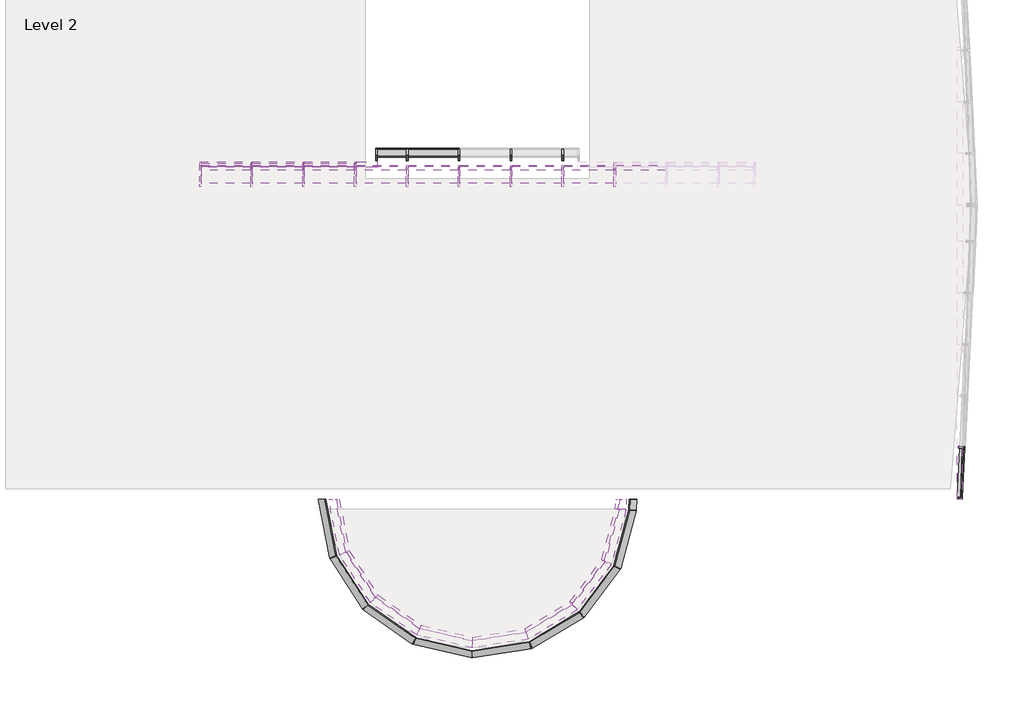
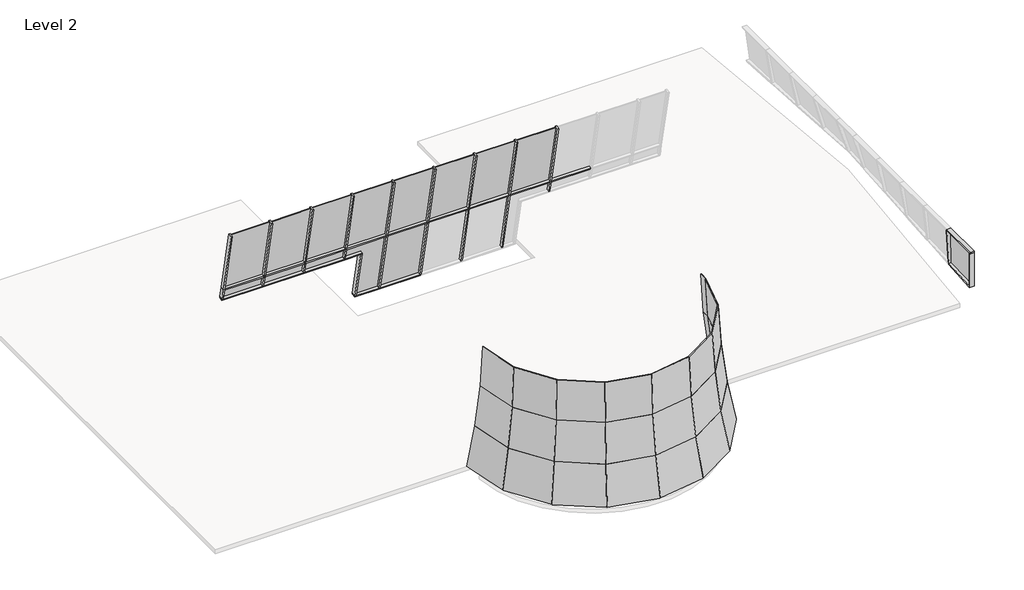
# One storey, part 1 of 2: 41 plates, 38 members.
"""IFC4 building model written with IfcOpenShell, lengths in millimetres."""

from ifc_helpers import new_model, si_unit, origin, place, context, project, spatial, transform, mapped, element, save
from components import rectangular_mullion_50_x_150mm_662c37b1, rectangular_mullion_50_x_150mm_dbed7bf6, rectangular_mullion_50_x_150mm_a29c3796, rectangular_mullion_50_x_150mm_3073d0f7, rectangular_mullion_50_x_150mm_461a195c, rectangular_mullion_50_x_150mm_e3280255, rectangular_mullion_50_x_150mm_1f4d75dd, rectangular_mullion_50_x_150mm_f0154c62, rectangular_mullion_50_x_150mm_cb3b9d87, rectangular_mullion_50_x_150mm_518b68e2, rectangular_mullion_50_x_150mm_6225e4e3, rectangular_mullion_50_x_150mm_81f490af, rectangular_mullion_50_x_150mm_3ed892e3, rectangular_mullion_50_x_150mm_61f7243f, rectangular_mullion_50_x_150mm_3a294e72, system_panel_glazed_378ae4e2, system_panel_glazed_b87072f2, system_panel_glazed_5b22529f, system_panel_glazed_8ab755ad, system_panel_glazed_129cb0d4, system_panel_glazed_b38f2dba, system_panel_glazed_85b74ca6, system_panel_glazed_ca00df24, system_panel_glazed_782504b5, system_panel_glazed_5e446c14, system_panel_glazed_2ce720db, system_panel_glazed_be26d2f9, system_panel_glazed_d76edf87

model = new_model("IFC4")

# Units and contexts
model_context = context("Model", 3, world=origin())
ifc_project = project(units=[si_unit("LENGTHUNIT", "METRE", prefix="MILLI")], contexts=[model_context])

# Site, building, storey
site = spatial("IfcSite", under=ifc_project)
building = spatial("IfcBuilding", under=site)
storey = spatial("IfcBuildingStorey", under=building, Name="Level 2", Elevation=4000.0)

# Members
placement = place(None, origin())
rectangular_mullion_50_x_150mm_shape = rectangular_mullion_50_x_150mm_662c37b1(model_context)
element("IfcMember", 1, ObjectType="Rectangular Mullion : 50 x 150mm", at=placement, inside=storey, context=model_context, shape_type="MappedRepresentation", body=[
    mapped(rectangular_mullion_50_x_150mm_shape, transform((-8113.532296, 7967.8602069, 6559.1486565), x_axis=(-1.0, 0.0, 0.0), y_axis=(0.0, 0.9794896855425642, 0.20149430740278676), z_axis=(0.0, 0.20149430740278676, -0.9794896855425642))),
])
rectangular_mullion_50_x_150mm_2_shape = rectangular_mullion_50_x_150mm_dbed7bf6(model_context)
element("IfcMember", 2, ObjectType="Rectangular Mullion : 50 x 150mm", at=placement, inside=storey, context=model_context, shape_type="MappedRepresentation", body=[
    mapped(rectangular_mullion_50_x_150mm_2_shape, transform((-2972.4273455, 8063.1361645, 6096.0), x_axis=(0.0, 0.2014943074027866, -0.9794896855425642), y_axis=(0.0, 0.9794896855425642, 0.2014943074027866), z_axis=(1.0, 0.0, 0.0))),
])
rectangular_mullion_50_x_150mm_3_shape = rectangular_mullion_50_x_150mm_a29c3796(model_context)
element("IfcMember", 3, ObjectType="Rectangular Mullion : 50 x 150mm", at=placement, inside=storey, context=model_context, shape_type="MappedRepresentation", body=[
    mapped(rectangular_mullion_50_x_150mm_3_shape, transform((-3022.4273455, 8441.3718293, 4257.3478955), x_axis=(-1.0, 0.0, 0.0), y_axis=(0.0, 0.9794896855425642, 0.20149430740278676), z_axis=(0.0, 0.20149430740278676, -0.9794896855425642))),
])
rectangular_mullion_50_x_150mm_4_shape = rectangular_mullion_50_x_150mm_3073d0f7(model_context)
element("IfcMember", 4, ObjectType="Rectangular Mullion : 50 x 150mm", at=placement, inside=storey, context=model_context, shape_type="MappedRepresentation", body=[
    mapped(rectangular_mullion_50_x_150mm_4_shape, transform((-8113.532296, 8053.0614491, 6144.9744843), x_axis=(-1.0, 0.0, 0.0), y_axis=(0.0, 0.9794896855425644, 0.20149430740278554), z_axis=(0.0, 0.2014943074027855, -0.9794896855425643))),
])
rectangular_mullion_50_x_150mm_5_shape = rectangular_mullion_50_x_150mm_461a195c(model_context)
element("IfcMember", 5, ObjectType="Rectangular Mullion : 50 x 150mm", at=placement, inside=storey, context=model_context, shape_type="MappedRepresentation", body=[
    mapped(rectangular_mullion_50_x_150mm_5_shape, transform((-613.532296, 8451.4465447, 4208.3734112), x_axis=(0.0, 0.2014943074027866, -0.9794896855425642), y_axis=(0.0, 0.9794896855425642, 0.2014943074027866), z_axis=(1.0, 0.0, 0.0))),
])
element("IfcMember", 6, ObjectType="Rectangular Mullion : 50 x 150mm", at=placement, inside=storey, context=model_context, shape_type="MappedRepresentation", body=[
    mapped(rectangular_mullion_50_x_150mm_5_shape, transform((-5113.532296, 8063.1361645, 6096.0), x_axis=(0.0, 0.2014943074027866, -0.9794896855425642), y_axis=(0.0, 0.9794896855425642, 0.2014943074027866), z_axis=(1.0, 0.0, 0.0))),
])
element("IfcMember", 7, ObjectType="Rectangular Mullion : 50 x 150mm", at=placement, inside=storey, context=model_context, shape_type="MappedRepresentation", body=[
    mapped(rectangular_mullion_50_x_150mm_5_shape, transform((-3613.532296, 8063.1361645, 6096.0), x_axis=(0.0, 0.2014943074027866, -0.9794896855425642), y_axis=(0.0, 0.9794896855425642, 0.2014943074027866), z_axis=(1.0, 0.0, 0.0))),
])
rectangular_mullion_50_x_150mm_6_shape = rectangular_mullion_50_x_150mm_e3280255(model_context)
element("IfcMember", 8, ObjectType="Rectangular Mullion : 50 x 150mm", at=placement, inside=storey, context=model_context, shape_type="MappedRepresentation", body=[
    mapped(rectangular_mullion_50_x_150mm_6_shape, transform((-2113.532296, 8451.4465447, 4208.3734112), x_axis=(0.0, 0.2014943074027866, -0.9794896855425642), y_axis=(0.0, 0.9794896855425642, 0.2014943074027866), z_axis=(1.0, 0.0, 0.0))),
])
element("IfcMember", 9, ObjectType="Rectangular Mullion : 50 x 150mm", at=placement, inside=storey, context=model_context, shape_type="MappedRepresentation", body=[
    mapped(rectangular_mullion_50_x_150mm_5_shape, transform((-6613.532296, 8063.1361645, 6096.0), x_axis=(0.0, 0.2014943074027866, -0.9794896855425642), y_axis=(0.0, 0.9794896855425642, 0.2014943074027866), z_axis=(1.0, 0.0, 0.0))),
])
rectangular_mullion_50_x_150mm_7_shape = rectangular_mullion_50_x_150mm_1f4d75dd(model_context)
element("IfcMember", 10, ObjectType="Rectangular Mullion : 50 x 150mm", at=placement, inside=storey, context=model_context, shape_type="MappedRepresentation", body=[
    mapped(rectangular_mullion_50_x_150mm_7_shape, transform((-8063.532296, 7967.8602069, 6559.1486565), x_axis=(0.0, -0.2014943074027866, 0.9794896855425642), y_axis=(0.0, 0.9794896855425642, 0.2014943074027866), z_axis=(-1.0, 0.0, 0.0))),
])
rectangular_mullion_50_x_150mm_8_shape = rectangular_mullion_50_x_150mm_f0154c62(model_context)
element("IfcMember", 11, ObjectType="Rectangular Mullion : 50 x 150mm", at=placement, inside=storey, context=model_context, shape_type="MappedRepresentation", body=[
    mapped(rectangular_mullion_50_x_150mm_8_shape, transform((-6588.532296, 7967.8602069, 6559.1486565), x_axis=(0.0, -0.2014943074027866, 0.9794896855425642), y_axis=(0.0, 0.9794896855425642, 0.2014943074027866), z_axis=(-1.0, 0.0, 0.0))),
])
element("IfcMember", 12, ObjectType="Rectangular Mullion : 50 x 150mm", at=placement, inside=storey, context=model_context, shape_type="MappedRepresentation", body=[
    mapped(rectangular_mullion_50_x_150mm_8_shape, transform((-5088.532296, 7967.8602069, 6559.1486565), x_axis=(0.0, -0.2014943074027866, 0.9794896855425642), y_axis=(0.0, 0.9794896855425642, 0.2014943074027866), z_axis=(-1.0, 0.0, 0.0))),
])
element("IfcMember", 13, ObjectType="Rectangular Mullion : 50 x 150mm", at=placement, inside=storey, context=model_context, shape_type="MappedRepresentation", body=[
    mapped(rectangular_mullion_50_x_150mm_8_shape, transform((-3588.532296, 7967.8602069, 6559.1486565), x_axis=(0.0, -0.2014943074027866, 0.9794896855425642), y_axis=(0.0, 0.9794896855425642, 0.2014943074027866), z_axis=(-1.0, 0.0, 0.0))),
])
element("IfcMember", 14, ObjectType="Rectangular Mullion : 50 x 150mm", at=placement, inside=storey, context=model_context, shape_type="MappedRepresentation", body=[
    mapped(rectangular_mullion_50_x_150mm_8_shape, transform((-2088.532296, 7967.8602069, 6559.1486565), x_axis=(0.0, -0.2014943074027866, 0.9794896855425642), y_axis=(0.0, 0.9794896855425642, 0.2014943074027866), z_axis=(-1.0, 0.0, 0.0))),
])
element("IfcMember", 15, ObjectType="Rectangular Mullion : 50 x 150mm", at=placement, inside=storey, context=model_context, shape_type="MappedRepresentation", body=[
    mapped(rectangular_mullion_50_x_150mm_8_shape, transform((-588.532296, 7967.8602069, 6559.1486565), x_axis=(0.0, -0.2014943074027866, 0.9794896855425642), y_axis=(0.0, 0.9794896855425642, 0.2014943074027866), z_axis=(-1.0, 0.0, 0.0))),
])
element("IfcMember", 16, ObjectType="Rectangular Mullion : 50 x 150mm", at=placement, inside=storey, context=model_context, shape_type="MappedRepresentation", body=[
    mapped(rectangular_mullion_50_x_150mm_8_shape, transform((911.467704, 7967.8602069, 6559.1486565), x_axis=(0.0, -0.2014943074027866, 0.9794896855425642), y_axis=(0.0, 0.9794896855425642, 0.2014943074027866), z_axis=(-1.0, 0.0, 0.0))),
])
element("IfcMember", 17, ObjectType="Rectangular Mullion : 50 x 150mm", at=placement, inside=storey, context=model_context, shape_type="MappedRepresentation", body=[
    mapped(rectangular_mullion_50_x_150mm_8_shape, transform((2411.467704, 7967.8602069, 6559.1486565), x_axis=(0.0, -0.2014943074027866, 0.9794896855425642), y_axis=(0.0, 0.9794896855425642, 0.2014943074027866), z_axis=(-1.0, 0.0, 0.0))),
])
element("IfcMember", 18, ObjectType="Rectangular Mullion : 50 x 150mm", at=placement, inside=storey, context=model_context, shape_type="MappedRepresentation", body=[
    mapped(rectangular_mullion_50_x_150mm_8_shape, transform((3911.467704, 7967.8602069, 6559.1486565), x_axis=(0.0, -0.2014943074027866, 0.9794896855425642), y_axis=(0.0, 0.9794896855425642, 0.2014943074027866), z_axis=(-1.0, 0.0, 0.0))),
])
rectangular_mullion_50_x_150mm_9_shape = rectangular_mullion_50_x_150mm_cb3b9d87(model_context)
element("IfcMember", 19, ObjectType="Rectangular Mullion : 50 x 150mm", at=placement, inside=storey, context=model_context, shape_type="MappedRepresentation", body=[
    mapped(rectangular_mullion_50_x_150mm_9_shape, transform((-6613.532296, 7967.8602069, 6559.1486565), x_axis=(1.0, 0.0, 0.0), y_axis=(0.0, 0.9794896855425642, 0.20149430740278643), z_axis=(0.0, -0.20149430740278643, 0.9794896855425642))),
])
element("IfcMember", 20, ObjectType="Rectangular Mullion : 50 x 150mm", at=placement, inside=storey, context=model_context, shape_type="MappedRepresentation", body=[
    mapped(rectangular_mullion_50_x_150mm_9_shape, transform((-5113.532296, 7967.8602069, 6559.1486565), x_axis=(1.0, 0.0, 0.0), y_axis=(0.0, 0.9794896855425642, 0.20149430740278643), z_axis=(0.0, -0.20149430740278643, 0.9794896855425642))),
])
element("IfcMember", 21, ObjectType="Rectangular Mullion : 50 x 150mm", at=placement, inside=storey, context=model_context, shape_type="MappedRepresentation", body=[
    mapped(rectangular_mullion_50_x_150mm_9_shape, transform((-3613.532296, 7967.8602069, 6559.1486565), x_axis=(1.0, 0.0, 0.0), y_axis=(0.0, 0.9794896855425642, 0.20149430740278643), z_axis=(0.0, -0.20149430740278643, 0.9794896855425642))),
])
element("IfcMember", 22, ObjectType="Rectangular Mullion : 50 x 150mm", at=placement, inside=storey, context=model_context, shape_type="MappedRepresentation", body=[
    mapped(rectangular_mullion_50_x_150mm_9_shape, transform((3886.467704, 7967.8602069, 6559.1486565), x_axis=(1.0, 0.0, 0.0), y_axis=(0.0, 0.9794896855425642, 0.20149430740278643), z_axis=(0.0, -0.20149430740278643, 0.9794896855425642))),
])
rectangular_mullion_50_x_150mm_10_shape = rectangular_mullion_50_x_150mm_518b68e2(model_context)
element("IfcMember", 23, ObjectType="Rectangular Mullion : 50 x 150mm", at=placement, inside=storey, context=model_context, shape_type="MappedRepresentation", body=[
    mapped(rectangular_mullion_50_x_150mm_10_shape, transform((-2113.532296, 7967.8602069, 6559.1486565), x_axis=(1.0, 0.0, 0.0), y_axis=(0.0, 0.9794896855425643, 0.2014943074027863), z_axis=(0.0, -0.2014943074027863, 0.9794896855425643))),
])
element("IfcMember", 24, ObjectType="Rectangular Mullion : 50 x 150mm", at=placement, inside=storey, context=model_context, shape_type="MappedRepresentation", body=[
    mapped(rectangular_mullion_50_x_150mm_10_shape, transform((-613.532296, 7967.8602069, 6559.1486565), x_axis=(1.0, 0.0, 0.0), y_axis=(0.0, 0.9794896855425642, 0.20149430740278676), z_axis=(0.0, -0.20149430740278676, 0.9794896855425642))),
])
element("IfcMember", 25, ObjectType="Rectangular Mullion : 50 x 150mm", at=placement, inside=storey, context=model_context, shape_type="MappedRepresentation", body=[
    mapped(rectangular_mullion_50_x_150mm_10_shape, transform((886.467704, 7967.8602069, 6559.1486565), x_axis=(1.0, 0.0, 0.0), y_axis=(0.0, 0.9794896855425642, 0.20149430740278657), z_axis=(0.0, -0.20149430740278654, 0.9794896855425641))),
])
element("IfcMember", 26, ObjectType="Rectangular Mullion : 50 x 150mm", at=placement, inside=storey, context=model_context, shape_type="MappedRepresentation", body=[
    mapped(rectangular_mullion_50_x_150mm_10_shape, transform((2386.467704, 7967.8602069, 6559.1486565), x_axis=(1.0, 0.0, 0.0), y_axis=(0.0, 0.9794896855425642, 0.20149430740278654), z_axis=(0.0, -0.2014943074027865, 0.9794896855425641))),
])
rectangular_mullion_50_x_150mm_11_shape = rectangular_mullion_50_x_150mm_6225e4e3(model_context)
element("IfcMember", 27, ObjectType="Rectangular Mullion : 50 x 150mm", at=placement, inside=storey, context=model_context, shape_type="MappedRepresentation", body=[
    mapped(rectangular_mullion_50_x_150mm_11_shape, transform((-6613.532296, 7484.2738691, 8909.9239018), x_axis=(1.0, 0.0, 0.0), y_axis=(0.0, 0.9794896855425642, 0.20149430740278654), z_axis=(0.0, -0.2014943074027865, 0.9794896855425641))),
])
element("IfcMember", 28, ObjectType="Rectangular Mullion : 50 x 150mm", at=placement, inside=storey, context=model_context, shape_type="MappedRepresentation", body=[
    mapped(rectangular_mullion_50_x_150mm_11_shape, transform((-5113.532296, 7484.2738691, 8909.9239018), x_axis=(1.0, 0.0, 0.0), y_axis=(0.0, 0.9794896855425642, 0.20149430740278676), z_axis=(0.0, -0.20149430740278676, 0.9794896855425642))),
])
element("IfcMember", 29, ObjectType="Rectangular Mullion : 50 x 150mm", at=placement, inside=storey, context=model_context, shape_type="MappedRepresentation", body=[
    mapped(rectangular_mullion_50_x_150mm_11_shape, transform((-3613.532296, 7484.2738691, 8909.9239018), x_axis=(1.0, 0.0, 0.0), y_axis=(0.0, 0.9794896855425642, 0.20149430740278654), z_axis=(0.0, -0.2014943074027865, 0.9794896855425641))),
])
element("IfcMember", 30, ObjectType="Rectangular Mullion : 50 x 150mm", at=placement, inside=storey, context=model_context, shape_type="MappedRepresentation", body=[
    mapped(rectangular_mullion_50_x_150mm_11_shape, transform((-2113.532296, 7484.2738691, 8909.9239018), x_axis=(1.0, 0.0, 0.0), y_axis=(0.0, 0.9794896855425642, 0.20149430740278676), z_axis=(0.0, -0.20149430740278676, 0.9794896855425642))),
])
element("IfcMember", 31, ObjectType="Rectangular Mullion : 50 x 150mm", at=placement, inside=storey, context=model_context, shape_type="MappedRepresentation", body=[
    mapped(rectangular_mullion_50_x_150mm_11_shape, transform((-613.532296, 7484.2738691, 8909.9239018), x_axis=(1.0, 0.0, 0.0), y_axis=(0.0, 0.9794896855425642, 0.20149430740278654), z_axis=(0.0, -0.2014943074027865, 0.9794896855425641))),
])
element("IfcMember", 32, ObjectType="Rectangular Mullion : 50 x 150mm", at=placement, inside=storey, context=model_context, shape_type="MappedRepresentation", body=[
    mapped(rectangular_mullion_50_x_150mm_11_shape, transform((886.467704, 7484.2738691, 8909.9239018), x_axis=(1.0, 0.0, 0.0), y_axis=(0.0, 0.9794896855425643, 0.20149430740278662), z_axis=(0.0, -0.20149430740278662, 0.9794896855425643))),
])
element("IfcMember", 33, ObjectType="Rectangular Mullion : 50 x 150mm", at=placement, inside=storey, context=model_context, shape_type="MappedRepresentation", body=[
    mapped(rectangular_mullion_50_x_150mm_11_shape, transform((2386.467704, 7484.2738691, 8909.9239018), x_axis=(1.0, 0.0, 0.0), y_axis=(0.0, 0.9794896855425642, 0.20149430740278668), z_axis=(0.0, -0.20149430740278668, 0.9794896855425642))),
])
element("IfcMember", 34, ObjectType="Rectangular Mullion : 50 x 150mm", at=placement, inside=storey, context=model_context, shape_type="MappedRepresentation", body=[
    mapped(rectangular_mullion_50_x_150mm_11_shape, transform((3886.467704, 7484.2738691, 8909.9239018), x_axis=(1.0, 0.0, 0.0), y_axis=(0.0, 0.9794896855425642, 0.20149430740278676), z_axis=(0.0, -0.20149430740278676, 0.9794896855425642))),
])
rectangular_mullion_50_x_150mm_12_shape = rectangular_mullion_50_x_150mm_81f490af(model_context)
element("IfcMember", 35, ObjectType="Rectangular Mullion : 50 x 150mm", at=placement, inside=storey, context=model_context, shape_type="MappedRepresentation", body=[
    mapped(rectangular_mullion_50_x_150mm_12_shape, transform((13862.2459218, -1610.1054831, 6046.0), x_axis=(-0.025601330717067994, -0.9996722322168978, 0.0), y_axis=(0.9996722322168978, -0.025601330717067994, 0.0), z_axis=(0.0, 0.0, 1.0))),
])
rectangular_mullion_50_x_150mm_13_shape = rectangular_mullion_50_x_150mm_3ed892e3(model_context)
element("IfcMember", 36, ObjectType="Rectangular Mullion : 50 x 150mm", at=placement, inside=storey, context=model_context, shape_type="MappedRepresentation", body=[
    mapped(rectangular_mullion_50_x_150mm_13_shape, transform((13862.2459218, -119.9400218, 6096.0), x_axis=(-0.028119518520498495, 0.0, 0.999604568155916), y_axis=(0.999604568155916, 0.0, 0.028119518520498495), z_axis=(0.0, 1.0, 0.0))),
])
rectangular_mullion_50_x_150mm_14_shape = rectangular_mullion_50_x_150mm_61f7243f(model_context)
element("IfcMember", 37, ObjectType="Rectangular Mullion : 50 x 150mm", at=placement, inside=storey, context=model_context, shape_type="MappedRepresentation", body=[
    mapped(rectangular_mullion_50_x_150mm_14_shape, transform((13937.2925665, -144.9072933, 4739.375187), x_axis=(-0.055089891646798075, 0.002821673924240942, 0.9984774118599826), y_axis=(0.9971702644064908, -0.05107451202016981, 0.05516210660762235), z_axis=(0.05115239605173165, 0.9986908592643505, 0.0))),
])
rectangular_mullion_50_x_150mm_15_shape = rectangular_mullion_50_x_150mm_3a294e72(model_context)
element("IfcMember", 38, ObjectType="Rectangular Mullion : 50 x 150mm", at=placement, inside=storey, context=model_context, shape_type="MappedRepresentation", body=[
    mapped(rectangular_mullion_50_x_150mm_15_shape, transform((13938.5713764, -119.9400218, 4739.375187), x_axis=(0.05099120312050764, 0.9986949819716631, 0.0028688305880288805), y_axis=(0.9971181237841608, -0.05107184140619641, 0.056099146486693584), z_axis=(0.05617245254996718, 0.0, -0.9984210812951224))),
])

# Plates
system_panel_glazed_shape = system_panel_glazed_378ae4e2(model_context)
element("IfcPlate", 39, ObjectType="System Panel : Glazed", at=placement, inside=storey, context=model_context, shape_type="MappedRepresentation", body=[
    mapped(system_panel_glazed_shape, transform((-7351.032296, 8053.0614491, 6144.9744843), x_axis=(1.0, 0.0, 0.0), y_axis=(0.0, 0.9794896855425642, 0.2014943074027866), z_axis=(0.0, -0.2014943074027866, 0.9794896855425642))),
])
system_panel_glazed_2_shape = system_panel_glazed_b87072f2(model_context)
element("IfcPlate", 40, ObjectType="System Panel : Glazed", at=placement, inside=storey, context=model_context, shape_type="MappedRepresentation", body=[
    mapped(system_panel_glazed_2_shape, transform((-5863.532296, 8053.0614491, 6144.9744843), x_axis=(1.0, 0.0, 0.0), y_axis=(0.0, 0.9794896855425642, 0.2014943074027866), z_axis=(0.0, -0.2014943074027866, 0.9794896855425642))),
])
element("IfcPlate", 41, ObjectType="System Panel : Glazed", at=placement, inside=storey, context=model_context, shape_type="MappedRepresentation", body=[
    mapped(system_panel_glazed_2_shape, transform((-4363.532296, 8053.0614491, 6144.9744843), x_axis=(1.0, 0.0, 0.0), y_axis=(0.0, 0.9794896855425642, 0.2014943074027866), z_axis=(0.0, -0.2014943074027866, 0.9794896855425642))),
])
system_panel_glazed_3_shape = system_panel_glazed_5b22529f(model_context)
element("IfcPlate", 42, ObjectType="System Panel : Glazed", at=placement, inside=storey, context=model_context, shape_type="MappedRepresentation", body=[
    mapped(system_panel_glazed_3_shape, transform((-2863.532296, 8441.3718293, 4257.3478955), x_axis=(1.0, 0.0, 0.0), y_axis=(0.0, 0.9794896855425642, 0.2014943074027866), z_axis=(0.0, -0.2014943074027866, 0.9794896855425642))),
])
system_panel_glazed_4_shape = system_panel_glazed_8ab755ad(model_context)
element("IfcPlate", 43, ObjectType="System Panel : Glazed", at=placement, inside=storey, context=model_context, shape_type="MappedRepresentation", body=[
    mapped(system_panel_glazed_4_shape, transform((-1363.532296, 8441.3718293, 4257.3478955), x_axis=(1.0, 0.0, 0.0), y_axis=(0.0, 0.9794896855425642, 0.2014943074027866), z_axis=(0.0, -0.2014943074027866, 0.9794896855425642))),
])
system_panel_glazed_5_shape = system_panel_glazed_129cb0d4(model_context)
element("IfcPlate", 44, ObjectType="System Panel : Glazed", at=placement, inside=storey, context=model_context, shape_type="MappedRepresentation", body=[
    mapped(system_panel_glazed_5_shape, transform((-7351.032296, 7962.8228492, 6583.6358986), x_axis=(1.0, 0.0, 0.0), y_axis=(0.0, 0.9794896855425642, 0.2014943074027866), z_axis=(0.0, -0.2014943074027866, 0.9794896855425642))),
])
system_panel_glazed_6_shape = system_panel_glazed_b38f2dba(model_context)
element("IfcPlate", 45, ObjectType="System Panel : Glazed", at=placement, inside=storey, context=model_context, shape_type="MappedRepresentation", body=[
    mapped(system_panel_glazed_6_shape, transform((-5863.532296, 7962.8228492, 6583.6358986), x_axis=(1.0, 0.0, 0.0), y_axis=(0.0, 0.9794896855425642, 0.2014943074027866), z_axis=(0.0, -0.2014943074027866, 0.9794896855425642))),
])
element("IfcPlate", 46, ObjectType="System Panel : Glazed", at=placement, inside=storey, context=model_context, shape_type="MappedRepresentation", body=[
    mapped(system_panel_glazed_6_shape, transform((-4363.532296, 7962.8228492, 6583.6358986), x_axis=(1.0, 0.0, 0.0), y_axis=(0.0, 0.9794896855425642, 0.2014943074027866), z_axis=(0.0, -0.2014943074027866, 0.9794896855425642))),
])
element("IfcPlate", 47, ObjectType="System Panel : Glazed", at=placement, inside=storey, context=model_context, shape_type="MappedRepresentation", body=[
    mapped(system_panel_glazed_6_shape, transform((-2863.532296, 7962.8228492, 6583.6358986), x_axis=(1.0, 0.0, 0.0), y_axis=(0.0, 0.9794896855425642, 0.2014943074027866), z_axis=(0.0, -0.2014943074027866, 0.9794896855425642))),
])
element("IfcPlate", 48, ObjectType="System Panel : Glazed", at=placement, inside=storey, context=model_context, shape_type="MappedRepresentation", body=[
    mapped(system_panel_glazed_6_shape, transform((-1363.532296, 7962.8228492, 6583.6358986), x_axis=(1.0, 0.0, 0.0), y_axis=(0.0, 0.9794896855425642, 0.2014943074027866), z_axis=(0.0, -0.2014943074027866, 0.9794896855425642))),
])
element("IfcPlate", 49, ObjectType="System Panel : Glazed", at=placement, inside=storey, context=model_context, shape_type="MappedRepresentation", body=[
    mapped(system_panel_glazed_6_shape, transform((136.467704, 7962.8228492, 6583.6358986), x_axis=(1.0, 0.0, 0.0), y_axis=(0.0, 0.9794896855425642, 0.2014943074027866), z_axis=(0.0, -0.2014943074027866, 0.9794896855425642))),
])
element("IfcPlate", 50, ObjectType="System Panel : Glazed", at=placement, inside=storey, context=model_context, shape_type="MappedRepresentation", body=[
    mapped(system_panel_glazed_6_shape, transform((1636.467704, 7962.8228492, 6583.6358986), x_axis=(1.0, 0.0, 0.0), y_axis=(0.0, 0.9794896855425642, 0.2014943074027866), z_axis=(0.0, -0.2014943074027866, 0.9794896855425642))),
])
element("IfcPlate", 51, ObjectType="System Panel : Glazed", at=placement, inside=storey, context=model_context, shape_type="MappedRepresentation", body=[
    mapped(system_panel_glazed_6_shape, transform((3136.467704, 7962.8228492, 6583.6358986), x_axis=(1.0, 0.0, 0.0), y_axis=(0.0, 0.9794896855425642, 0.2014943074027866), z_axis=(0.0, -0.2014943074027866, 0.9794896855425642))),
])
system_panel_glazed_7_shape = system_panel_glazed_85b74ca6(model_context)
element("IfcPlate", 52, ObjectType="System Panel : Glazed", at=placement, inside=storey, context=model_context, shape_type="MappedRepresentation", body=[
    mapped(system_panel_glazed_7_shape, transform((13900.0141293, -852.9872642, 4764.3566747), x_axis=(0.025621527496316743, 0.9996714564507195, -0.0007186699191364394), y_axis=(-0.9992771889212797, 0.025591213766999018, -0.028110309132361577), z_axis=(-0.028082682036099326, 0.0014383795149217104, 0.9996045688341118))),
])
system_panel_glazed_8_shape = system_panel_glazed_ca00df24(model_context)
element("IfcPlate", 53, ObjectType="System Panel : Glazed", at=placement, inside=storey, context=model_context, shape_type="MappedRepresentation", body=[
    mapped(system_panel_glazed_8_shape, transform((4464.6928574, -1771.10505, 4253.9576951), x_axis=(0.03540308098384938, 0.9993731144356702, -1.048949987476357e-12), y_axis=(-0.9797688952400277, 0.034708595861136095, -0.1970995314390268), z_axis=(-0.19697597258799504, 0.00697793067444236, 0.9803834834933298))),
])
system_panel_glazed_9_shape = system_panel_glazed_782504b5(model_context)
element("IfcPlate", 54, ObjectType="System Panel : Glazed", at=placement, inside=storey, context=model_context, shape_type="MappedRepresentation", body=[
    mapped(system_panel_glazed_9_shape, transform((4169.2360988, -1760.6384547, 5724.4970751), x_axis=(0.035403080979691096, 0.9993731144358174, 0.0), y_axis=(-0.9909765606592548, 0.03510563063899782, -0.12935629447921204), z_axis=(-0.12927520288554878, 0.004579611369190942, 0.9915981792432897))),
])
system_panel_glazed_10_shape = system_panel_glazed_5e446c14(model_context)
element("IfcPlate", 55, ObjectType="System Panel : Glazed", at=placement, inside=storey, context=model_context, shape_type="MappedRepresentation", body=[
    mapped(system_panel_glazed_10_shape, transform((3975.3253293, -1753.7691397, 7211.8787274), x_axis=(0.03540308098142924, 0.9993731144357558, 0.0), y_axis=(-0.9975719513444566, 0.03533927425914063, -0.06001114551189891), z_axis=(-0.059973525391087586, 0.0021245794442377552, 0.9981977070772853))),
])
system_panel_glazed_11_shape = system_panel_glazed_2ce720db(model_context)
element("IfcPlate", 56, ObjectType="System Panel : Glazed", at=placement, inside=storey, context=model_context, shape_type="MappedRepresentation", body=[
    mapped(system_panel_glazed_11_shape, transform((-4465.010556, -2462.1610605, 4253.9576951), x_axis=(0.19074722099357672, -0.9816391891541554, 0.0), y_axis=(0.9630410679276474, 0.18713332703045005, -0.19373440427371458), z_axis=(0.19017728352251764, 0.03695429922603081, 0.9810540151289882))),
])
element("IfcPlate", 57, ObjectType="System Panel : Glazed", at=placement, inside=storey, context=model_context, shape_type="MappedRepresentation", body=[
    mapped(system_panel_glazed_11_shape, transform((-2643.3718791, -5268.3988547, 4253.9576951), x_axis=(0.818971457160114, -0.5738342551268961, 0.0), y_axis=(0.5629624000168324, 0.8034552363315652, -0.19373440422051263), z_axis=(0.11117143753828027, 0.15866294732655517, 0.9810540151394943))),
])
element("IfcPlate", 58, ObjectType="System Panel : Glazed", at=placement, inside=storey, context=model_context, shape_type="MappedRepresentation", body=[
    mapped(system_panel_glazed_11_shape, transform((616.1920322, -6022.4417455, 4253.9576951), x_axis=(0.9877768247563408, 0.1558747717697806, 0.0), y_axis=(-0.15292157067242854, 0.9690624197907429, -0.193734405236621), z_axis=(-0.03019830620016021, 0.19136635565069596, 0.9810540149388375))),
])
element("IfcPlate", 59, ObjectType="System Panel : Glazed", at=placement, inside=storey, context=model_context, shape_type="MappedRepresentation", body=[
    mapped(system_panel_glazed_11_shape, transform((3485.1616306, -4301.294183, 4253.9576951), x_axis=(0.602468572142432, 0.7981426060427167, 0.0), y_axis=(-0.783021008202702, 0.5910542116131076, -0.19373440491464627), z_axis=(-0.15462768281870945, 0.11671889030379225, 0.9810540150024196))),
])
element("IfcPlate", 60, ObjectType="System Panel : Glazed", at=placement, inside=storey, context=model_context, shape_type="MappedRepresentation", body=[
    mapped(system_panel_glazed_11_shape, transform((4233.5446316, -2770.3084825, 4253.9576951), x_axis=(0.25973122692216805, 0.9656809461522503, 0.0), y_axis=(-0.9473851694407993, 0.25481036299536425, -0.1937344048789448), z_axis=(-0.18708562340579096, 0.050318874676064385, 0.98105401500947))),
])
element("IfcPlate", 61, ObjectType="System Panel : Glazed", at=placement, inside=storey, context=model_context, shape_type="MappedRepresentation", body=[
    mapped(system_panel_glazed_11_shape, transform((2217.8991603, -5440.6098142, 4253.9576951), x_axis=(0.8575238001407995, 0.5144442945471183, 0.0), y_axis=(-0.504697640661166, 0.8412771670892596, -0.19373440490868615), z_axis=(-0.09966555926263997, 0.16613186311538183, 0.9810540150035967))),
])
element("IfcPlate", 62, ObjectType="System Panel : Glazed", at=placement, inside=storey, context=model_context, shape_type="MappedRepresentation", body=[
    mapped(system_panel_glazed_11_shape, transform((-1086.8507699, -5962.1113224, 4253.9576951), x_axis=(0.9742708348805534, -0.2253804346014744, 0.0), y_axis=(0.22111038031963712, 0.9558123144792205, -0.19373440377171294), z_axis=(0.04366394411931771, 0.18874977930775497, 0.9810540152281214))),
])
element("IfcPlate", 63, ObjectType="System Panel : Glazed", at=placement, inside=storey, context=model_context, shape_type="MappedRepresentation", body=[
    mapped(system_panel_glazed_11_shape, transform((-3826.8382252, -4042.2657915, 4253.9576951), x_axis=(0.5444806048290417, -0.8387734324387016, 0.0), y_axis=(0.8228820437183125, 0.5341648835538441, -0.19373440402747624), z_axis=(0.16249927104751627, 0.10548462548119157, 0.9810540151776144))),
])
system_panel_glazed_12_shape = system_panel_glazed_be26d2f9(model_context)
element("IfcPlate", 64, ObjectType="System Panel : Glazed", at=placement, inside=storey, context=model_context, shape_type="MappedRepresentation", body=[
    mapped(system_panel_glazed_12_shape, transform((-4179.9465516, -2406.7688564, 5724.4970751), x_axis=(0.19074722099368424, -0.9816391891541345, 0.0), y_axis=(0.9736782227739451, 0.18920028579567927, -0.12709827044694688), z_axis=(0.12476464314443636, 0.024243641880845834, 0.9918901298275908))),
])
element("IfcPlate", 65, ObjectType="System Panel : Glazed", at=placement, inside=storey, context=model_context, shape_type="MappedRepresentation", body=[
    mapped(system_panel_glazed_12_shape, transform((-2476.7327568, -5030.5728978, 5724.4970751), x_axis=(0.8189714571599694, -0.5738342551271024, 0.0), y_axis=(0.5691805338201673, 0.8123297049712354, -0.12709827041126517), z_axis=(0.07293334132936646, 0.10408985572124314, 0.991890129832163))),
])
element("IfcPlate", 66, ObjectType="System Panel : Glazed", at=placement, inside=storey, context=model_context, shape_type="MappedRepresentation", body=[
    mapped(system_panel_glazed_12_shape, transform((570.9266329, -5735.5953974, 5724.4970751), x_axis=(0.9877768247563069, 0.15587477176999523, 0.0), y_axis=(-0.15461064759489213, 0.9797660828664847, -0.12709827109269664), z_axis=(-0.019811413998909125, 0.12554472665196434, 0.991890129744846))),
])
element("IfcPlate", 67, ObjectType="System Panel : Glazed", at=placement, inside=storey, context=model_context, shape_type="MappedRepresentation", body=[
    mapped(system_panel_glazed_12_shape, transform((3253.3842787, -4126.3397814, 5724.4970751), x_axis=(0.6024685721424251, 0.798142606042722, 0.0), y_axis=(-0.7916697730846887, 0.5975826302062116, -0.1270982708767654), z_axis=(-0.10144254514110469, 0.07657271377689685, 0.991890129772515))),
])
element("IfcPlate", 68, ObjectType="System Panel : Glazed", at=placement, inside=storey, context=model_context, shape_type="MappedRepresentation", body=[
    mapped(system_panel_glazed_12_shape, transform((3953.1148385, -2694.8835888, 5724.4970751), x_axis=(0.25973122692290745, 0.9656809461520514, 0.0), y_axis=(-0.9578493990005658, 0.2576248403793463, -0.12709827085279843), z_axis=(-0.12273637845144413, 0.033011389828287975, 0.991890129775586))),
])
element("IfcPlate", 69, ObjectType="System Panel : Glazed", at=placement, inside=storey, context=model_context, shape_type="MappedRepresentation", body=[
    mapped(system_panel_glazed_12_shape, transform((2068.5066473, -5191.5884084, 5724.4970751), x_axis=(0.8575238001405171, 0.5144442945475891, 0.0), y_axis=(-0.5102722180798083, 0.8505693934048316, -0.12709827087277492), z_axis=(-0.0653849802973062, 0.10898979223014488, 0.9918901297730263))),
])
element("IfcPlate", 70, ObjectType="System Panel : Glazed", at=placement, inside=storey, context=model_context, shape_type="MappedRepresentation", body=[
    mapped(system_panel_glazed_12_shape, transform((-1021.4012146, -5679.1870602, 5724.4970751), x_axis=(0.9742708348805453, -0.2253804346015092, 0.0), y_axis=(0.22355262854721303, 0.9663696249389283, -0.12709827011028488), z_axis=(0.028645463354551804, 0.12382813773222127, 0.9918901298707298))),
])
element("IfcPlate", 71, ObjectType="System Panel : Glazed", at=placement, inside=storey, context=model_context, shape_type="MappedRepresentation", body=[
    mapped(system_panel_glazed_12_shape, transform((-3583.2618572, -3884.1508472, 5724.4970751), x_axis=(0.5444806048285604, -0.8387734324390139, 0.0), y_axis=(0.8319710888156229, 0.540064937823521, -0.12709827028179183), z_axis=(0.1066066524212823, 0.06920254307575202, 0.9918901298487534))),
])
system_panel_glazed_13_shape = system_panel_glazed_d76edf87(model_context)
element("IfcPlate", 72, ObjectType="System Panel : Glazed", at=placement, inside=storey, context=model_context, shape_type="MappedRepresentation", body=[
    mapped(system_panel_glazed_13_shape, transform((-3992.8566345, -2370.4144844, 7211.8787274), x_axis=(0.1907472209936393, -0.9816391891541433, 0.0), y_axis=(0.9799320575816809, 0.19041549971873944, -0.058949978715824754), z_axis=(0.05786760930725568, 0.011244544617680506, 0.998260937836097))),
])
element("IfcPlate", 73, ObjectType="System Panel : Glazed", at=placement, inside=storey, context=model_context, shape_type="MappedRepresentation", body=[
    mapped(system_panel_glazed_13_shape, transform((-2367.3660915, -4874.4857109, 7211.8787274), x_axis=(0.8189714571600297, -0.5738342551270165, 0.0), y_axis=(0.5728363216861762, 0.8175472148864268, -0.058949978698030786), z_axis=(0.03382751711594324, 0.0482783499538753, 0.9982609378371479))),
])
element("IfcPlate", 74, ObjectType="System Panel : Glazed", at=placement, inside=storey, context=model_context, shape_type="MappedRepresentation", body=[
    mapped(system_panel_glazed_13_shape, transform((541.2185686, -5547.3357132, 7211.8787274), x_axis=(0.9877768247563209, 0.15587477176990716, 0.0), y_axis=(-0.15560369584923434, 0.9860590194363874, -0.0589499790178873), z_axis=(-0.00918881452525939, 0.058229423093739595, 0.9982609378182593))),
])
element("IfcPlate", 75, ObjectType="System Panel : Glazed", at=placement, inside=storey, context=model_context, shape_type="MappedRepresentation", body=[
    mapped(system_panel_glazed_13_shape, transform((3101.2668424, -4011.5157279, 7211.8787274), x_axis=(0.602468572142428, 0.7981426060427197, 0.0), y_axis=(-0.7967545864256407, 0.601420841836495, -0.058949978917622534), z_axis=(-0.04705048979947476, 0.035515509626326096, 0.9982609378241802))),
])
element("IfcPlate", 76, ObjectType="System Panel : Glazed", at=placement, inside=storey, context=model_context, shape_type="MappedRepresentation", body=[
    mapped(system_panel_glazed_13_shape, transform((3769.0663935, -2645.3815932, 7211.8787274), x_axis=(0.25973122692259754, 0.9656809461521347, 0.0), y_axis=(-0.9640015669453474, 0.25927953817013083, -0.058949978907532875), z_axis=(-0.05692687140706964, 0.015311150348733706, 0.9982609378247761))),
])
element("IfcPlate", 77, ObjectType="System Panel : Glazed", at=placement, inside=storey, context=model_context, shape_type="MappedRepresentation", body=[
    mapped(system_panel_glazed_13_shape, transform((1970.4590774, -5028.1535537, 7211.8787274), x_axis=(0.857523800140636, 0.5144442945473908, 0.0), y_axis=(-0.513549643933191, 0.856032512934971, -0.05894997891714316), z_axis=(-0.030326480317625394, 0.05055100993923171, 0.9982609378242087))),
])
element("IfcPlate", 78, ObjectType="System Panel : Glazed", at=placement, inside=storey, context=model_context, shape_type="MappedRepresentation", body=[
    mapped(system_panel_glazed_13_shape, transform((-978.4461179, -5493.501474, 7211.8787274), x_axis=(0.9742708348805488, -0.22538043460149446, 0.0), y_axis=(0.22498848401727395, 0.972576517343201, -0.0589499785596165), z_axis=(0.013286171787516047, 0.05743324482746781, 0.9982609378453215))),
])
element("IfcPlate", 79, ObjectType="System Panel : Glazed", at=placement, inside=storey, context=model_context, shape_type="MappedRepresentation", body=[
    mapped(system_panel_glazed_13_shape, transform((-3423.4006268, -3780.378672, 7211.8787274), x_axis=(0.5444806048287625, -0.8387734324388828, 0.0), y_axis=(0.8373147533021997, 0.5435337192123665, -0.058949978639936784), z_axis=(0.049445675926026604, 0.03209712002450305, 0.9982609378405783))),
])

save(model, "model.ifc")
